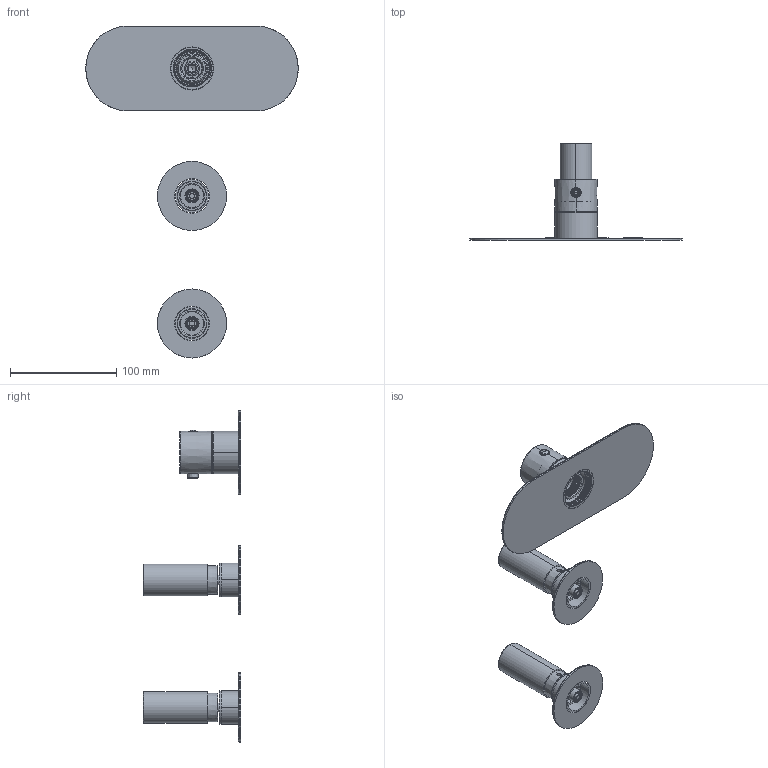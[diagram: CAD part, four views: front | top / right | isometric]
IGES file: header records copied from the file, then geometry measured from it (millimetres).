
Start section:  PTC IGES file: 12760V2NP.igs
Global section: file name: 12760V2NP.igs; native system: Creo Parametric by PTC Inc.; preprocessor: 2025443; author: carloff; organization: Unknown; date: 20260917.142253; units: millimetre
Bounding box: 200 x 91.5 x 312.5 mm (x, y, z)
Surface area: 97891.8 mm2 (no closed solid volume)
Topology: 0 solids, 0 shells, 2189 faces, 12746 edges, 12742 vertices
Faces by surface type: bspline 1437, revolution 690, extrusion 62
